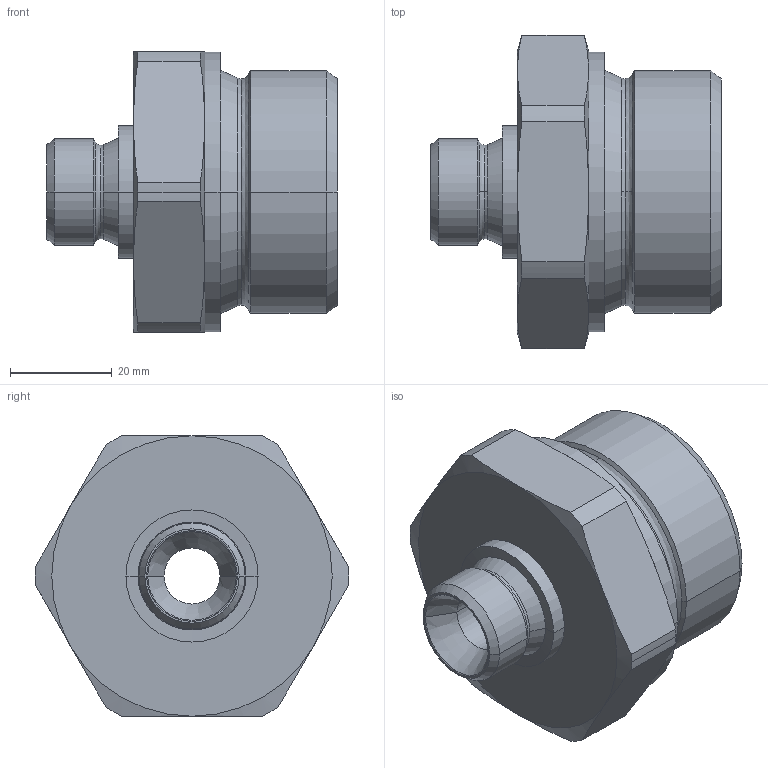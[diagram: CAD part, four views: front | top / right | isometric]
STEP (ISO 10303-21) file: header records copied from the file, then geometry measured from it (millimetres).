
FILE_DESCRIPTION((''),'2;1');
FILE_NAME('300537.stp','2006-09-11T08:17:11',(''),(''),'AutoCAD STEP 2000i','AutoCAD 2000i',', , ');
FILE_SCHEMA(('CONFIG_CONTROL_DESIGN'));
Length unit declared in the file: millimetre
Products named in the file (2): 300537.0; CHIAVE SMUSSATA#0
Assembly tree (1 placements, depth 2):
  300537.0
    CHIAVE SMUSSATA#0
Bounding box: 57 x 61.5 x 55 mm (x, y, z)
Volume: 52843.5 mm3; surface area: 16485.6 mm2
Topology: 1 solids, 1 shells, 76 faces, 178 edges, 106 vertices
Faces by surface type: cone 34, cylinder 20, plane 10, bspline 8, torus 4
Entity records: 2593 total; most frequent: CARTESIAN_POINT 762, DIRECTION 400, ORIENTED_EDGE 356, EDGE_CURVE 178, AXIS2_PLACEMENT_3D 176, VERTEX_POINT 106, CIRCLE 106, EDGE_LOOP 80
